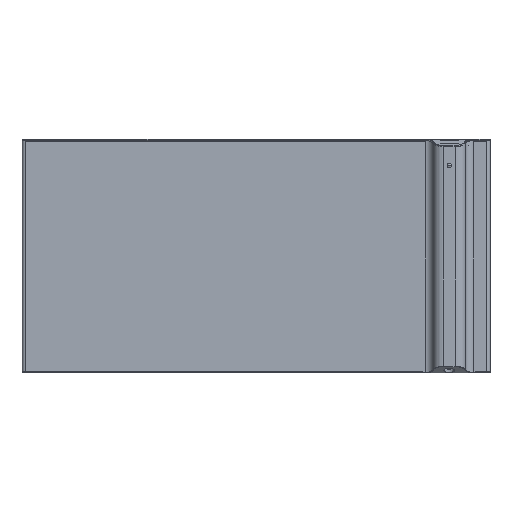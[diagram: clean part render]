
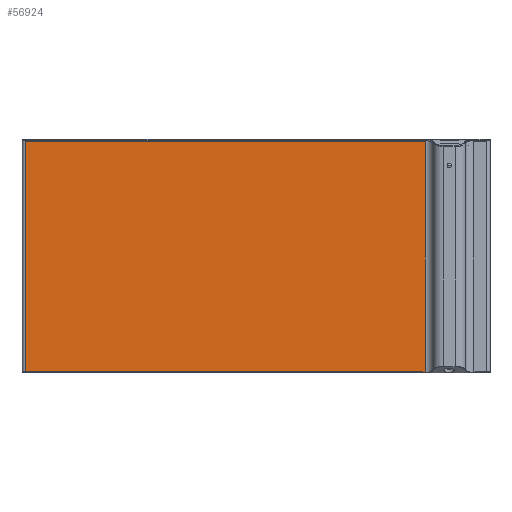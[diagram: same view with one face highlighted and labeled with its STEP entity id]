
A CAD part, top view. The second image highlights one B-rep face of the part: STEP entity #56924.
In plain terms, the highlighted planar face has unit normal (0, 0, 1).
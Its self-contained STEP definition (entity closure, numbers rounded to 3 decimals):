
#56386 = VERTEX_POINT('',#56387);
#56387 = CARTESIAN_POINT('',(365.562,-250.,30.));
#56404 = EDGE_CURVE('',#56386,#56405,#56407,.T.);
#56405 = VERTEX_POINT('',#56406);
#56406 = CARTESIAN_POINT('',(365.562,250.,30.));
#56407 = LINE('',#56408,#56409);
#56408 = CARTESIAN_POINT('',(365.562,-250.,30.));
#56409 = VECTOR('',#56410,1.);
#56410 = DIRECTION('',(0.,1.,0.));
#56654 = EDGE_CURVE('',#56405,#56655,#56657,.T.);
#56655 = VERTEX_POINT('',#56656);
#56656 = CARTESIAN_POINT('',(364.737,250.,30.));
#56657 = LINE('',#56658,#56659);
#56658 = CARTESIAN_POINT('',(365.562,250.,30.));
#56659 = VECTOR('',#56660,1.);
#56660 = DIRECTION('',(-1.,0.,0.));
#56846 = EDGE_CURVE('',#56847,#56849,#56851,.T.);
#56847 = VERTEX_POINT('',#56848);
#56848 = CARTESIAN_POINT('',(-496.546,-248.8,30.));
#56849 = VERTEX_POINT('',#56850);
#56850 = CARTESIAN_POINT('',(-497.,-248.8,30.));
#56851 = LINE('',#56852,#56853);
#56852 = CARTESIAN_POINT('',(-496.546,-248.8,30.));
#56853 = VECTOR('',#56854,1.);
#56854 = DIRECTION('',(-1.,0.,0.));
#56906 = EDGE_CURVE('',#56847,#56907,#56909,.T.);
#56907 = VERTEX_POINT('',#56908);
#56908 = CARTESIAN_POINT('',(-496.546,-250.3,30.));
#56909 = LINE('',#56910,#56911);
#56910 = CARTESIAN_POINT('',(-496.546,-248.8,30.));
#56911 = VECTOR('',#56912,1.);
#56912 = DIRECTION('',(0.,-1.,0.));
#56924 = ADVANCED_FACE('',(#56925),#56999,.T.);
#56925 = FACE_BOUND('',#56926,.F.);
#56926 = EDGE_LOOP('',(#56927,#56928,#56936,#56944,#56952,#56960,#56966,
    #56967,#56968,#56976,#56984,#56992,#56998));
#56927 = ORIENTED_EDGE('',*,*,#56846,.T.);
#56928 = ORIENTED_EDGE('',*,*,#56929,.F.);
#56929 = EDGE_CURVE('',#56930,#56849,#56932,.T.);
#56930 = VERTEX_POINT('',#56931);
#56931 = CARTESIAN_POINT('',(-497.,250.,30.));
#56932 = LINE('',#56933,#56934);
#56933 = CARTESIAN_POINT('',(-497.,250.,30.));
#56934 = VECTOR('',#56935,1.);
#56935 = DIRECTION('',(0.,-1.,0.));
#56936 = ORIENTED_EDGE('',*,*,#56937,.T.);
#56937 = EDGE_CURVE('',#56930,#56938,#56940,.T.);
#56938 = VERTEX_POINT('',#56939);
#56939 = CARTESIAN_POINT('',(-496.437,250.,30.));
#56940 = LINE('',#56941,#56942);
#56941 = CARTESIAN_POINT('',(-497.,250.,30.));
#56942 = VECTOR('',#56943,1.);
#56943 = DIRECTION('',(1.,0.,0.));
#56944 = ORIENTED_EDGE('',*,*,#56945,.T.);
#56945 = EDGE_CURVE('',#56938,#56946,#56948,.T.);
#56946 = VERTEX_POINT('',#56947);
#56947 = CARTESIAN_POINT('',(-496.,248.8,30.));
#56948 = LINE('',#56949,#56950);
#56949 = CARTESIAN_POINT('',(-496.437,250.,30.));
#56950 = VECTOR('',#56951,1.);
#56951 = DIRECTION('',(0.342,-0.94,0.));
#56952 = ORIENTED_EDGE('',*,*,#56953,.F.);
#56953 = EDGE_CURVE('',#56954,#56946,#56956,.T.);
#56954 = VERTEX_POINT('',#56955);
#56955 = CARTESIAN_POINT('',(364.3,248.8,30.));
#56956 = LINE('',#56957,#56958);
#56957 = CARTESIAN_POINT('',(364.3,248.8,30.));
#56958 = VECTOR('',#56959,1.);
#56959 = DIRECTION('',(-1.,0.,0.));
#56960 = ORIENTED_EDGE('',*,*,#56961,.F.);
#56961 = EDGE_CURVE('',#56655,#56954,#56962,.T.);
#56962 = LINE('',#56963,#56964);
#56963 = CARTESIAN_POINT('',(364.737,250.,30.));
#56964 = VECTOR('',#56965,1.);
#56965 = DIRECTION('',(-0.342,-0.94,0.));
#56966 = ORIENTED_EDGE('',*,*,#56654,.F.);
#56967 = ORIENTED_EDGE('',*,*,#56404,.F.);
#56968 = ORIENTED_EDGE('',*,*,#56969,.T.);
#56969 = EDGE_CURVE('',#56386,#56970,#56972,.T.);
#56970 = VERTEX_POINT('',#56971);
#56971 = CARTESIAN_POINT('',(360.437,-250.,30.));
#56972 = LINE('',#56973,#56974);
#56973 = CARTESIAN_POINT('',(365.562,-250.,30.));
#56974 = VECTOR('',#56975,1.);
#56975 = DIRECTION('',(-1.,0.,0.));
#56976 = ORIENTED_EDGE('',*,*,#56977,.T.);
#56977 = EDGE_CURVE('',#56970,#56978,#56980,.T.);
#56978 = VERTEX_POINT('',#56979);
#56979 = CARTESIAN_POINT('',(360.,-248.8,30.));
#56980 = LINE('',#56981,#56982);
#56981 = CARTESIAN_POINT('',(360.437,-250.,30.));
#56982 = VECTOR('',#56983,1.);
#56983 = DIRECTION('',(-0.342,0.94,0.));
#56984 = ORIENTED_EDGE('',*,*,#56985,.F.);
#56985 = EDGE_CURVE('',#56986,#56978,#56988,.T.);
#56986 = VERTEX_POINT('',#56987);
#56987 = CARTESIAN_POINT('',(-496.,-248.8,30.));
#56988 = LINE('',#56989,#56990);
#56989 = CARTESIAN_POINT('',(-496.,-248.8,30.));
#56990 = VECTOR('',#56991,1.);
#56991 = DIRECTION('',(1.,0.,0.));
#56992 = ORIENTED_EDGE('',*,*,#56993,.F.);
#56993 = EDGE_CURVE('',#56907,#56986,#56994,.T.);
#56994 = LINE('',#56995,#56996);
#56995 = CARTESIAN_POINT('',(-496.546,-250.3,30.));
#56996 = VECTOR('',#56997,1.);
#56997 = DIRECTION('',(0.342,0.94,0.));
#56998 = ORIENTED_EDGE('',*,*,#56906,.F.);
#56999 = PLANE('',#57000);
#57000 = AXIS2_PLACEMENT_3D('',#57001,#57002,#57003);
#57001 = CARTESIAN_POINT('',(-505.,-250.,30.));
#57002 = DIRECTION('',(0.,0.,1.));
#57003 = DIRECTION('',(1.,0.,-0.));
